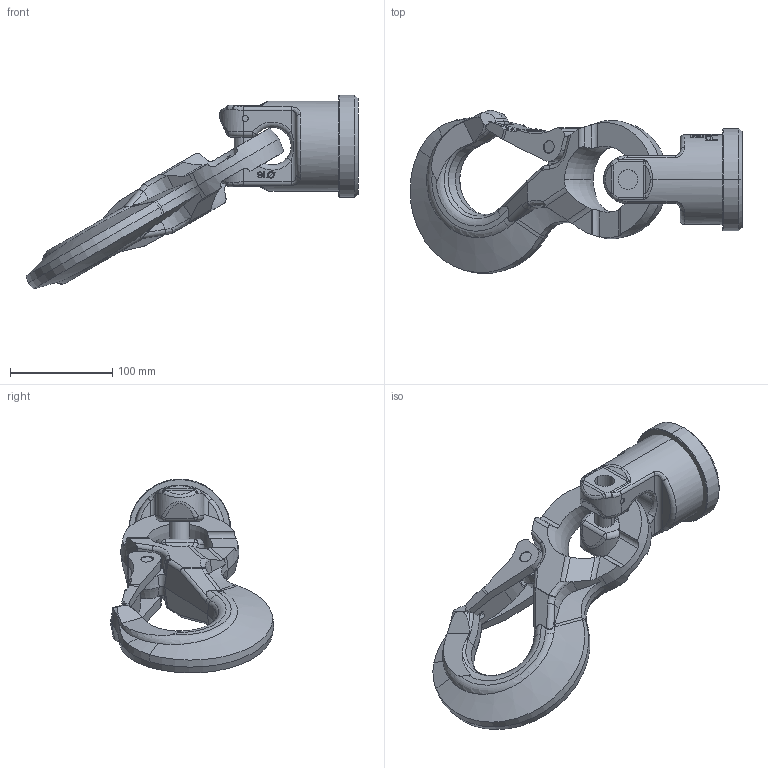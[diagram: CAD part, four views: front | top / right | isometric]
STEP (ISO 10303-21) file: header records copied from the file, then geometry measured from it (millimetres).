
FILE_DESCRIPTION((''),'2;1');
FILE_NAME('001-M31342-P-40_ASM','2018-04-26T',('Anja.Joas'),(''),'PRO/ENGINEER BY PARAMETRIC TECHNOLOGY CORPORATION, 2011490','PRO/ENGINEER BY PARAMETRIC TECHNOLOGY CORPORATION, 2011490','');
FILE_SCHEMA(('CONFIG_CONTROL_DESIGN'));
Length unit declared in the file: millimetre
Products named in the file (6): 001-M31342-P-20; 001-M31342-P-50; 001-M31476-001; 001-M31477-001; 001-M31476-002_ASM; 001-M31342-P-40_ASM
Assembly tree (5 placements, depth 3):
  001-M31342-P-40_ASM
    001-M31342-P-20
    001-M31342-P-50
    001-M31476-002_ASM
      001-M31476-001
      001-M31477-001
Bounding box: 324.99 x 159.73 x 189.88 mm (x, y, z)
Volume: 1295025.9 mm3; surface area: 158816.4 mm2
Topology: 4 solids, 4 shells, 777 faces, 2101 edges, 1338 vertices
Faces by surface type: plane 484, cylinder 121, bspline 60, sphere 42, cone 38, torus 32
Entity records: 28752 total; most frequent: CARTESIAN_POINT 10225, ORIENTED_EDGE 4146, DIRECTION 3393, EDGE_CURVE 2073, VERTEX_POINT 1338, AXIS2_PLACEMENT_3D 1154, VECTOR 1085, LINE 1085
